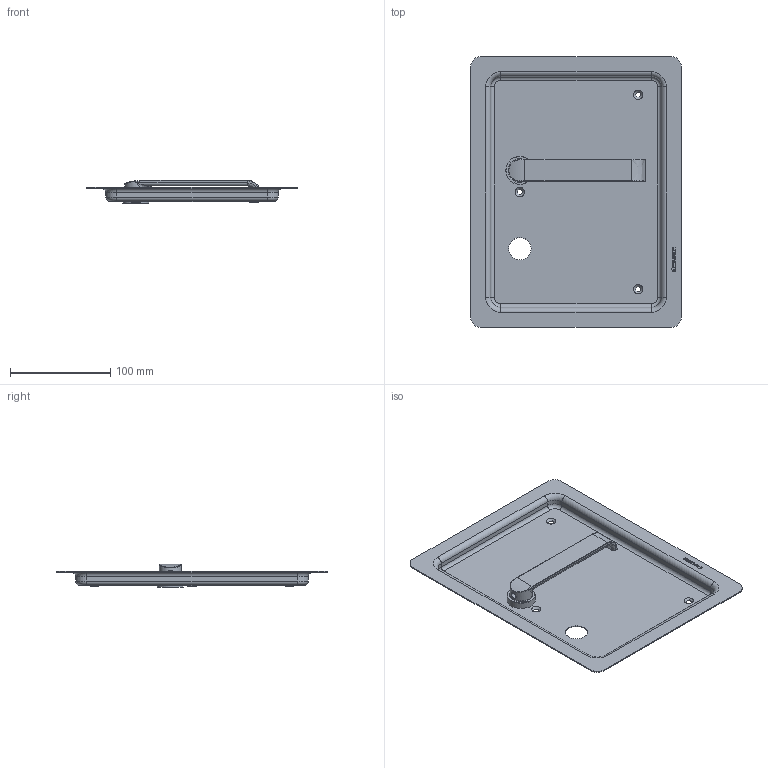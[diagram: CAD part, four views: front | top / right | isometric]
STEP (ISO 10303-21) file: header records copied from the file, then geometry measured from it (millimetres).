
FILE_DESCRIPTION(/* description */ (''),/* implementation_level */ '2;1');
FILE_NAME(/* name */ 'C:\ADSK_DMS_WS\Designs\Vorschläge\Loc Schalen\Muschel Serie 6\S6.13.D1\Heusser-Muschel S6.13.D1.278R.stp',/* time_stamp */ '2020-10-15T09:34:34+02:00',/* author */ ('gm'),/* organization */ (''),/* preprocessor_version */ 'ST-DEVELOPER v16.5',/* originating_system */ 'Autodesk Inventor 2017',/* authorisation */ '');
FILE_SCHEMA (('AUTOMOTIVE_DESIGN { 1 0 10303 214 3 1 1 }'));
Length unit declared in the file: millimetre
Products named in the file (1): S6.13.D1
Bounding box: 210 x 270 x 23 mm (x, y, z)
Volume: 84862.6 mm3; surface area: 138414.9 mm2
Topology: 1 solids, 2 shells, 303 faces, 760 edges, 482 vertices
Faces by surface type: plane 130, bspline 78, cylinder 60, torus 19, cone 16
Full cylindrical faces by diameter (mm): 1.7 x2, 6 x1, 14.2 x1, 16 x3, 18 x1, 19 x1, 19.1 x1, 22 x1, 22.3 x1, 23 x1, 23.2 x1, 24 x1, 25 x1, 26 x1, 28 x1
Entity records: 10113 total; most frequent: CARTESIAN_POINT 2976, ORIENTED_EDGE 1428, DIRECTION 1260, EDGE_CURVE 714, VERTEX_POINT 474, AXIS2_PLACEMENT_3D 434, LINE 392, VECTOR 392
